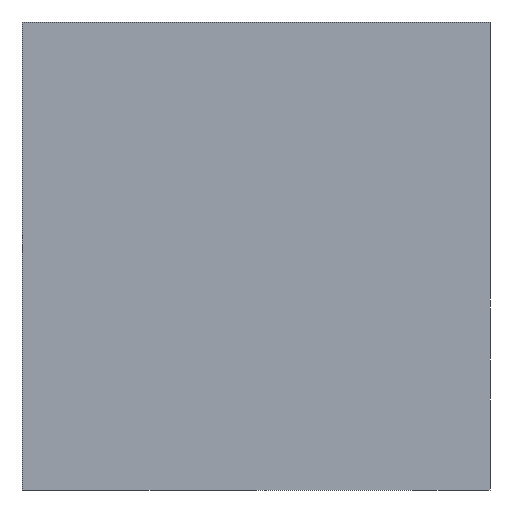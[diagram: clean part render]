
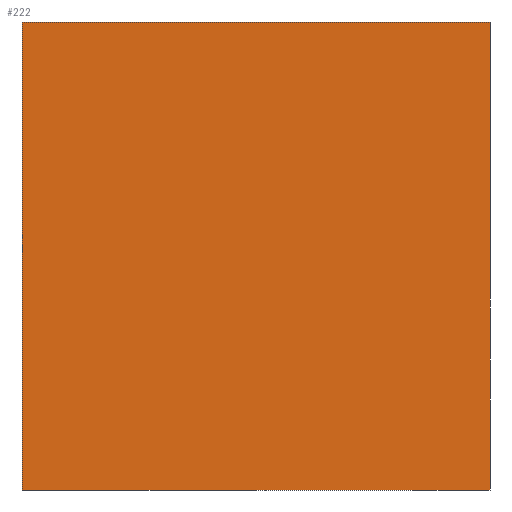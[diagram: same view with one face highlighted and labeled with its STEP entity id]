
A CAD part, left-side view. The second image highlights one B-rep face of the part: STEP entity #222.
In plain terms, the highlighted planar face has unit normal (-1, 0, 0).
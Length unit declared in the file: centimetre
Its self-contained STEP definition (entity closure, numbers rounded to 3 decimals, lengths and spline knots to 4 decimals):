
#20 = EDGE_CURVE ( 'NONE', #174, #171, #87, .T. ) ;
#21 = DIRECTION ( 'NONE',  ( 0., -1., 0. ) ) ;
#28 = VERTEX_POINT ( 'NONE', #176 ) ;
#43 = DIRECTION ( 'NONE',  ( 0., 0., -1. ) ) ;
#64 = CARTESIAN_POINT ( 'NONE',  ( 0., 0., 0. ) ) ;
#66 = VECTOR ( 'NONE', #341, 100. ) ;
#67 = DIRECTION ( 'NONE',  ( 1., 0., 0. ) ) ;
#73 = ORIENTED_EDGE ( 'NONE', *, *, #161, .F. ) ;
#87 = LINE ( 'NONE', #291, #360 ) ;
#89 = CARTESIAN_POINT ( 'NONE',  ( 0., 1000., 1000. ) ) ;
#93 = VECTOR ( 'NONE', #21, 100. ) ;
#104 = CARTESIAN_POINT ( 'NONE',  ( 0., 1000., 1000. ) ) ;
#119 = FACE_OUTER_BOUND ( 'NONE', #248, .T. ) ;
#129 = AXIS2_PLACEMENT_3D ( 'NONE', #89, #67, #43 ) ;
#153 = CARTESIAN_POINT ( 'NONE',  ( 0., 0., 1000. ) ) ;
#156 = CARTESIAN_POINT ( 'NONE',  ( 0., 1000., 1000. ) ) ;
#161 = EDGE_CURVE ( 'NONE', #171, #166, #332, .T. ) ;
#162 = CARTESIAN_POINT ( 'NONE',  ( 0., 1000., 0. ) ) ;
#166 = VERTEX_POINT ( 'NONE', #64 ) ;
#171 = VERTEX_POINT ( 'NONE', #327 ) ;
#174 = VERTEX_POINT ( 'NONE', #156 ) ;
#176 = CARTESIAN_POINT ( 'NONE',  ( 0., 1000., 0. ) ) ;
#185 = ORIENTED_EDGE ( 'NONE', *, *, #273, .T. ) ;
#222 = ADVANCED_FACE ( 'NONE', ( #119 ), #235, .F. ) ;
#235 = PLANE ( 'NONE',  #129 ) ;
#242 = LINE ( 'NONE', #104, #66 ) ;
#248 = EDGE_LOOP ( 'NONE', ( #185, #73, #370, #299 ) ) ;
#264 = DIRECTION ( 'NONE',  ( 0., -1., 0. ) ) ;
#273 = EDGE_CURVE ( 'NONE', #28, #166, #361, .T. ) ;
#291 = CARTESIAN_POINT ( 'NONE',  ( 0., 1000., 1000. ) ) ;
#299 = ORIENTED_EDGE ( 'NONE', *, *, #352, .T. ) ;
#306 = DIRECTION ( 'NONE',  ( 0., 0., -1. ) ) ;
#327 = CARTESIAN_POINT ( 'NONE',  ( 0., 0., 1000. ) ) ;
#332 = LINE ( 'NONE', #153, #366 ) ;
#341 = DIRECTION ( 'NONE',  ( 0., 0., -1. ) ) ;
#352 = EDGE_CURVE ( 'NONE', #174, #28, #242, .T. ) ;
#360 = VECTOR ( 'NONE', #264, 100. ) ;
#361 = LINE ( 'NONE', #162, #93 ) ;
#366 = VECTOR ( 'NONE', #306, 100. ) ;
#370 = ORIENTED_EDGE ( 'NONE', *, *, #20, .F. ) ;
